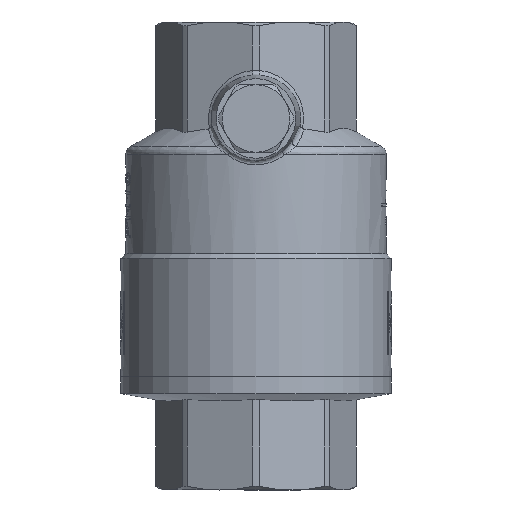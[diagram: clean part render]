
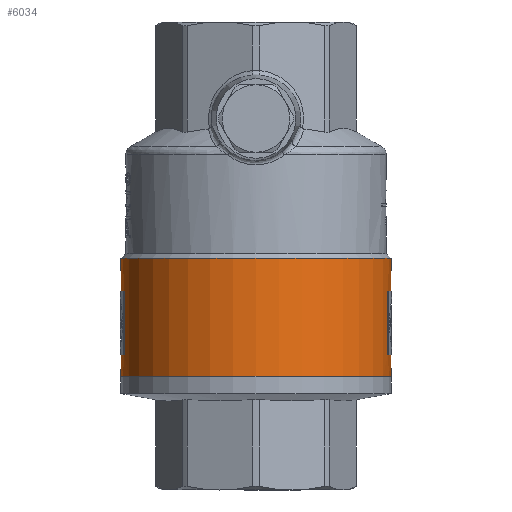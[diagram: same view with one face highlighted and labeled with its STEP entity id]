
A CAD part, front view. The second image highlights one B-rep face of the part: STEP entity #6034.
In plain terms, the highlighted cylindrical face has radius 28 mm (diameter 56 mm), a full revolution.
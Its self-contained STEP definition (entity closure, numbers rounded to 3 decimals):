
#404=FACE_BOUND('',#908,.T.);
#405=FACE_BOUND('',#909,.T.);
#406=FACE_BOUND('',#910,.T.);
#545=FACE_OUTER_BOUND('',#907,.T.);
#907=EDGE_LOOP('',(#4435,#4436,#4437,#4438,#4439,#4440));
#908=EDGE_LOOP('',(#4441,#4442,#4443,#4444));
#909=EDGE_LOOP('',(#4445,#4446,#4447,#4448));
#910=EDGE_LOOP('',(#4449,#4450));
#1240=CIRCLE('',#6378,28.);
#1241=CIRCLE('',#6381,28.);
#1266=CIRCLE('',#6466,28.);
#1267=CIRCLE('',#6467,28.);
#1268=CIRCLE('',#6468,28.);
#1269=CIRCLE('',#6469,28.);
#1270=CIRCLE('',#6470,28.);
#1271=CIRCLE('',#6471,28.);
#1608=B_SPLINE_CURVE_WITH_KNOTS('',3,(#12967,#12968,#12969,#12970,#12971,
#12972,#12973,#12974,#12975,#12976,#12977,#12978,#12979,#12980,#12981,#12982,
#12983,#12984,#12985,#12986,#12987,#12988,#12989,#12990,#12991,#12992),
 .UNSPECIFIED.,.F.,.F.,(4,2,2,2,2,2,2,2,2,2,2,2,4),(0.,0.335,
0.671,1.003,1.336,1.668,2.001,
2.336,2.671,3.006,3.34,3.674,
4.007),.UNSPECIFIED.);
#1609=B_SPLINE_CURVE_WITH_KNOTS('',3,(#12993,#12994,#12995,#12996,#12997,
#12998,#12999,#13000,#13001,#13002),.UNSPECIFIED.,.F.,.F.,(4,2,2,2,4),(4.007,
4.341,4.674,5.008,5.343),
 .UNSPECIFIED.);
#1718=LINE('',#11925,#2086);
#1722=LINE('',#11934,#2090);
#1812=LINE('',#12953,#2180);
#1813=LINE('',#12961,#2181);
#1814=LINE('',#12964,#2182);
#2086=VECTOR('',#7166,10.);
#2090=VECTOR('',#7176,10.);
#2180=VECTOR('',#7442,28.);
#2181=VECTOR('',#7449,10.);
#2182=VECTOR('',#7452,10.);
#2494=VERTEX_POINT('',#11922);
#2495=VERTEX_POINT('',#11924);
#2496=VERTEX_POINT('',#11928);
#2497=VERTEX_POINT('',#11932);
#2616=VERTEX_POINT('',#12948);
#2617=VERTEX_POINT('',#12949);
#2618=VERTEX_POINT('',#12952);
#2619=VERTEX_POINT('',#12954);
#2620=VERTEX_POINT('',#12957);
#2621=VERTEX_POINT('',#12958);
#2622=VERTEX_POINT('',#12960);
#2623=VERTEX_POINT('',#12962);
#2624=VERTEX_POINT('',#12965);
#2625=VERTEX_POINT('',#12966);
#3148=EDGE_CURVE('',#2495,#2494,#1718,.T.);
#3151=EDGE_CURVE('',#2494,#2496,#1240,.T.);
#3153=EDGE_CURVE('',#2496,#2497,#1722,.T.);
#3154=EDGE_CURVE('',#2497,#2495,#1241,.T.);
#3332=EDGE_CURVE('',#2616,#2617,#1266,.T.);
#3333=EDGE_CURVE('',#2617,#2616,#1267,.T.);
#3334=EDGE_CURVE('',#2617,#2618,#1812,.T.);
#3335=EDGE_CURVE('',#2618,#2619,#1268,.T.);
#3336=EDGE_CURVE('',#2619,#2618,#1269,.T.);
#3337=EDGE_CURVE('',#2620,#2621,#1270,.T.);
#3338=EDGE_CURVE('',#2621,#2622,#1813,.T.);
#3339=EDGE_CURVE('',#2622,#2623,#1271,.T.);
#3340=EDGE_CURVE('',#2623,#2620,#1814,.T.);
#3341=EDGE_CURVE('',#2624,#2625,#1608,.T.);
#3342=EDGE_CURVE('',#2625,#2624,#1609,.T.);
#4435=ORIENTED_EDGE('',*,*,#3332,.F.);
#4436=ORIENTED_EDGE('',*,*,#3333,.F.);
#4437=ORIENTED_EDGE('',*,*,#3334,.T.);
#4438=ORIENTED_EDGE('',*,*,#3335,.T.);
#4439=ORIENTED_EDGE('',*,*,#3336,.T.);
#4440=ORIENTED_EDGE('',*,*,#3334,.F.);
#4441=ORIENTED_EDGE('',*,*,#3148,.T.);
#4442=ORIENTED_EDGE('',*,*,#3151,.T.);
#4443=ORIENTED_EDGE('',*,*,#3153,.T.);
#4444=ORIENTED_EDGE('',*,*,#3154,.T.);
#4445=ORIENTED_EDGE('',*,*,#3337,.T.);
#4446=ORIENTED_EDGE('',*,*,#3338,.T.);
#4447=ORIENTED_EDGE('',*,*,#3339,.T.);
#4448=ORIENTED_EDGE('',*,*,#3340,.T.);
#4449=ORIENTED_EDGE('',*,*,#3341,.T.);
#4450=ORIENTED_EDGE('',*,*,#3342,.T.);
#5865=CYLINDRICAL_SURFACE('',#6465,28.);
#6034=ADVANCED_FACE('',(#545,#404,#405,#406),#5865,.T.);
#6378=AXIS2_PLACEMENT_3D('',#11930,#7171,#7172);
#6381=AXIS2_PLACEMENT_3D('',#11936,#7179,#7180);
#6465=AXIS2_PLACEMENT_3D('',#12947,#7436,#7437);
#6466=AXIS2_PLACEMENT_3D('',#12950,#7438,#7439);
#6467=AXIS2_PLACEMENT_3D('',#12951,#7440,#7441);
#6468=AXIS2_PLACEMENT_3D('',#12955,#7443,#7444);
#6469=AXIS2_PLACEMENT_3D('',#12956,#7445,#7446);
#6470=AXIS2_PLACEMENT_3D('',#12959,#7447,#7448);
#6471=AXIS2_PLACEMENT_3D('',#12963,#7450,#7451);
#7166=DIRECTION('',(0.,0.,1.));
#7171=DIRECTION('center_axis',(0.,0.,1.));
#7172=DIRECTION('ref_axis',(0.,1.,0.));
#7176=DIRECTION('',(0.,0.,-1.));
#7179=DIRECTION('center_axis',(0.,0.,-1.));
#7180=DIRECTION('ref_axis',(0.,1.,0.));
#7436=DIRECTION('center_axis',(0.,0.,-1.));
#7437=DIRECTION('ref_axis',(0.,1.,0.));
#7438=DIRECTION('center_axis',(0.,0.,-1.));
#7439=DIRECTION('ref_axis',(1.,0.,0.));
#7440=DIRECTION('center_axis',(0.,0.,-1.));
#7441=DIRECTION('ref_axis',(1.,0.,0.));
#7442=DIRECTION('',(0.,0.,1.));
#7443=DIRECTION('center_axis',(0.,0.,-1.));
#7444=DIRECTION('ref_axis',(1.,0.,0.));
#7445=DIRECTION('center_axis',(0.,0.,-1.));
#7446=DIRECTION('ref_axis',(1.,0.,0.));
#7447=DIRECTION('center_axis',(0.,0.,-1.));
#7448=DIRECTION('ref_axis',(0.,1.,0.));
#7449=DIRECTION('',(0.,0.,1.));
#7450=DIRECTION('center_axis',(0.,0.,1.));
#7451=DIRECTION('ref_axis',(0.,1.,0.));
#7452=DIRECTION('',(0.,0.,-1.));
#11922=CARTESIAN_POINT('',(-27.082,7.111,-0.837));
#11924=CARTESIAN_POINT('',(-27.082,7.111,-14.023));
#11925=CARTESIAN_POINT('',(-27.082,7.111,-6.247));
#11928=CARTESIAN_POINT('',(-27.333,-6.075,-0.837));
#11930=CARTESIAN_POINT('Origin',(0.,0.,-0.837));
#11932=CARTESIAN_POINT('',(-27.333,-6.075,-14.023));
#11934=CARTESIAN_POINT('',(-27.333,-6.075,-6.247));
#11936=CARTESIAN_POINT('Origin',(0.,0.,-14.023));
#12947=CARTESIAN_POINT('Origin',(0.,0.,-6.247));
#12948=CARTESIAN_POINT('',(0.,28.,-18.485));
#12949=CARTESIAN_POINT('',(0.,-28.,-18.485));
#12950=CARTESIAN_POINT('Origin',(0.,0.,-18.485));
#12951=CARTESIAN_POINT('Origin',(0.,0.,-18.485));
#12952=CARTESIAN_POINT('',(0.,-28.,5.99));
#12953=CARTESIAN_POINT('',(0.,-28.,-6.247));
#12954=CARTESIAN_POINT('',(0.,28.,5.99));
#12955=CARTESIAN_POINT('Origin',(0.,0.,5.99));
#12956=CARTESIAN_POINT('Origin',(0.,0.,5.99));
#12957=CARTESIAN_POINT('',(27.08,7.118,-13.972));
#12958=CARTESIAN_POINT('',(27.335,-6.068,-13.972));
#12959=CARTESIAN_POINT('Origin',(0.,0.,-13.972));
#12960=CARTESIAN_POINT('',(27.335,-6.068,-0.786));
#12961=CARTESIAN_POINT('',(27.335,-6.068,-6.247));
#12962=CARTESIAN_POINT('',(27.08,7.118,-0.786));
#12963=CARTESIAN_POINT('Origin',(0.,0.,-0.786));
#12964=CARTESIAN_POINT('',(27.08,7.118,-6.247));
#12965=CARTESIAN_POINT('',(-8.842,26.567,-8.51));
#12966=CARTESIAN_POINT('',(0.,28.,0.245));
#12967=CARTESIAN_POINT('Ctrl Pts',(-8.842,26.567,-8.51));
#12968=CARTESIAN_POINT('Ctrl Pts',(-8.842,26.567,-9.627));
#12969=CARTESIAN_POINT('Ctrl Pts',(-8.613,26.647,-10.812));
#12970=CARTESIAN_POINT('Ctrl Pts',(-7.696,26.926,-12.977));
#12971=CARTESIAN_POINT('Ctrl Pts',(-7.008,27.121,-13.958));
#12972=CARTESIAN_POINT('Ctrl Pts',(-5.439,27.478,-15.496));
#12973=CARTESIAN_POINT('Ctrl Pts',(-4.453,27.665,-16.161));
#12974=CARTESIAN_POINT('Ctrl Pts',(-2.288,27.928,-17.045));
#12975=CARTESIAN_POINT('Ctrl Pts',(-1.109,28.,-17.264));
#12976=CARTESIAN_POINT('Ctrl Pts',(1.109,28.,-17.264));
#12977=CARTESIAN_POINT('Ctrl Pts',(2.288,27.928,-17.045));
#12978=CARTESIAN_POINT('Ctrl Pts',(4.453,27.665,-16.161));
#12979=CARTESIAN_POINT('Ctrl Pts',(5.439,27.478,-15.496));
#12980=CARTESIAN_POINT('Ctrl Pts',(7.008,27.121,-13.958));
#12981=CARTESIAN_POINT('Ctrl Pts',(7.696,26.926,-12.977));
#12982=CARTESIAN_POINT('Ctrl Pts',(8.613,26.647,-10.812));
#12983=CARTESIAN_POINT('Ctrl Pts',(8.842,26.567,-9.627));
#12984=CARTESIAN_POINT('Ctrl Pts',(8.842,26.567,-7.395));
#12985=CARTESIAN_POINT('Ctrl Pts',(8.614,26.646,-6.213));
#12986=CARTESIAN_POINT('Ctrl Pts',(7.701,26.924,-4.053));
#12987=CARTESIAN_POINT('Ctrl Pts',(7.017,27.118,-3.073));
#12988=CARTESIAN_POINT('Ctrl Pts',(5.451,27.476,-1.532));
#12989=CARTESIAN_POINT('Ctrl Pts',(4.463,27.664,-0.864));
#12990=CARTESIAN_POINT('Ctrl Pts',(2.293,27.927,0.025));
#12991=CARTESIAN_POINT('Ctrl Pts',(1.112,28.,0.245));
#12992=CARTESIAN_POINT('Ctrl Pts',(0.,28.,
0.245));
#12993=CARTESIAN_POINT('Ctrl Pts',(0.,28.,
0.245));
#12994=CARTESIAN_POINT('Ctrl Pts',(-1.112,28.,0.245));
#12995=CARTESIAN_POINT('Ctrl Pts',(-2.293,27.927,0.025));
#12996=CARTESIAN_POINT('Ctrl Pts',(-4.463,27.664,-0.864));
#12997=CARTESIAN_POINT('Ctrl Pts',(-5.451,27.476,-1.532));
#12998=CARTESIAN_POINT('Ctrl Pts',(-7.017,27.118,-3.073));
#12999=CARTESIAN_POINT('Ctrl Pts',(-7.701,26.924,-4.053));
#13000=CARTESIAN_POINT('Ctrl Pts',(-8.614,26.646,-6.213));
#13001=CARTESIAN_POINT('Ctrl Pts',(-8.842,26.567,-7.395));
#13002=CARTESIAN_POINT('Ctrl Pts',(-8.842,26.567,-8.51));
